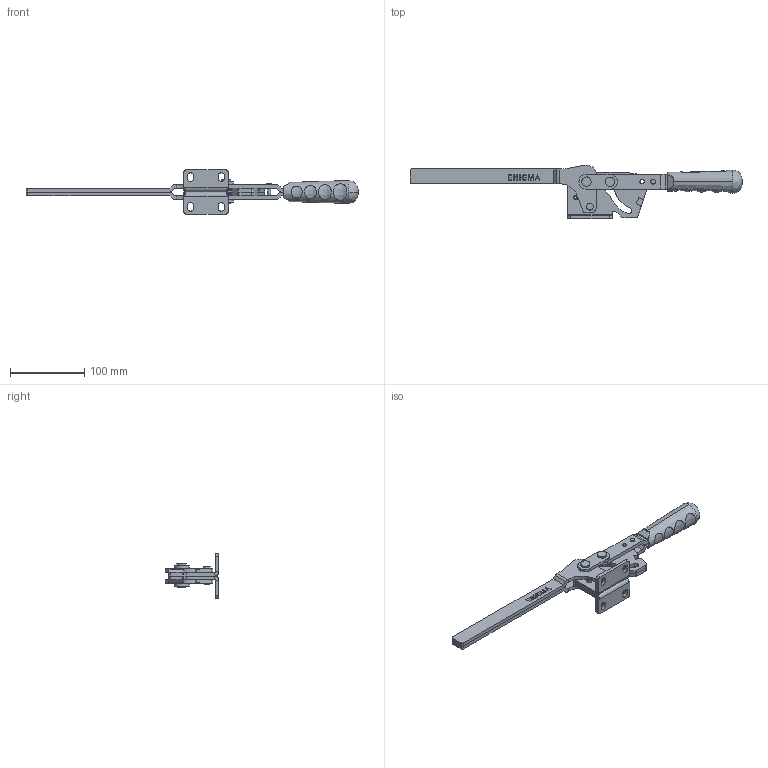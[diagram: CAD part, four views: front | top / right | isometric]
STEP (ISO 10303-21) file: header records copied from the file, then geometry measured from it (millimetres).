
FILE_DESCRIPTION (( 'STEP AP203' ), '1' );
FILE_NAME ('1235_Y_L.STEP', '2022-11-26T18:31:10', ( '' ), ( '' ), 'SwSTEP 2.0', 'SolidWorks 2023', '' );
FILE_SCHEMA (( 'CONFIG_CONTROL_DESIGN' ));
Length unit declared in the file: millimetre
Products named in the file (13): Burc_9_7x6x8; 2235_K_HareketKolu(Default); 1235_Y_L; Pim_8x33; 2235_K_Govde(Default); 2235_Lama Baski Kolu(Default)-1; 2235_KozaMafsal; 1351C_Pim_4x21; Pim_6x24_5; Aynalama2235_Lama Baski Kolu(Default)-2; C100_Yeni_Tutamak_10x20_Varsay_X2_0131_X0_lan; Aynalama2235_K_Govde(Default); spring pin slotted_hd_bsi(Spring Pin ISO 8752 - 6 x 20St)
Assembly tree (16 placements, depth 2):
  1235_Y_L
    2235_K_Govde(Default)
    2235_Lama Baski Kolu(Default)-1
    2235_KozaMafsal  x2
    2235_K_HareketKolu(Default)  x2
    Pim_8x33  x2
    Pim_6x24_5
    Burc_9_7x6x8  x2
    spring pin slotted_hd_bsi(Spring Pin ISO 8752 - 6 x 20St)
    Aynalama2235_K_Govde(Default)
    1351C_Pim_4x21
    Aynalama2235_Lama Baski Kolu(Default)-2
    C100_Yeni_Tutamak_10x20_Varsay_X2_0131_X0_lan
Bounding box: 446.43 x 72.47 x 60.08 mm (x, y, z)
Volume: 211147.2 mm3; surface area: 107469.5 mm2
Topology: 16 solids, 16 shells, 1083 faces, 2868 edges, 1880 vertices
Faces by surface type: plane 599, cylinder 250, bspline 209, cone 25
Entity records: 38945 total; most frequent: CARTESIAN_POINT 15285, ORIENTED_EDGE 4932, DIRECTION 4041, EDGE_CURVE 2466, VERTEX_POINT 1620, LINE 1553, VECTOR 1553, AXIS2_PLACEMENT_3D 1244
